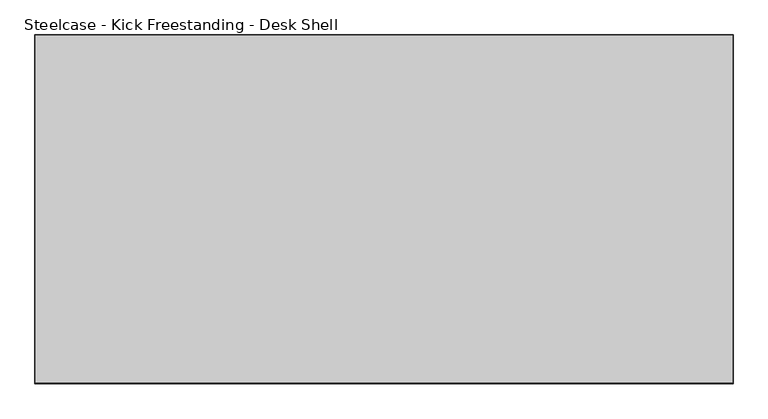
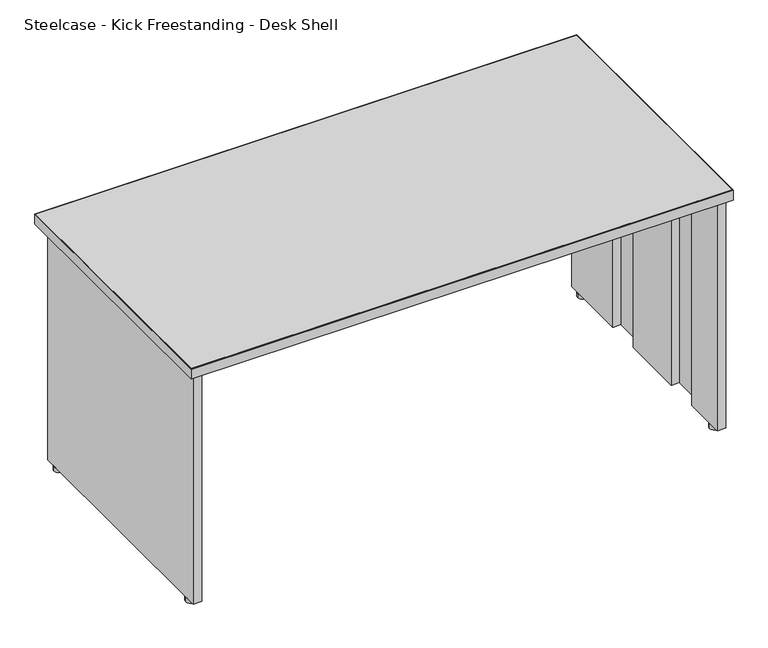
"""IFC4 building model written with IfcOpenShell, lengths in millimetres: furniture geometry, Steelcase - Kick Freestanding - Desk Shell : 30D x 60W."""

from ifc_helpers import new_model, si_unit, point, frame, frame_2d, origin, origin_with_axes, place, context, project, spatial, polyline, circle_curve, trimmed, segment, composite_curve, outline, extrude, source, transform, mapped, element, save


def steelcase_kick_freestanding_desk_shell_e798f491(model_context):
    return source(origin(), model_context, "Body", "SweptSolid", [
        extrude(outline(composite_curve([segment(trimmed(circle_curve(frame_2d((665.1357759, -1004.2087877)), 13.97), [point((651.1657759, -1004.2087877))], [point((679.1057759, -1004.2087877))], False, "CARTESIAN"), True, "CONTINUOUS"), segment(trimmed(circle_curve(frame_2d((665.1357759, -1004.2087877)), 13.97), [point((679.1057759, -1004.2087877))], [point((651.1657759, -1004.2087877))], False, "CARTESIAN"), True, "CONTINUOUS")], self_intersect=False)), origin_with_axes(), (0.0, 0.0, 1.0), 12.446),
        extrude(outline(composite_curve([segment(trimmed(circle_curve(frame_2d((665.1357759, -1646.0441481)), 13.97), [point((651.1657759, -1646.0441481))], [point((679.1057759, -1646.0441481))], False, "CARTESIAN"), True, "CONTINUOUS"), segment(trimmed(circle_curve(frame_2d((665.1357759, -1646.0441481)), 13.97), [point((679.1057759, -1646.0441481))], [point((651.1657759, -1646.0441481))], False, "CARTESIAN"), True, "CONTINUOUS")], self_intersect=False)), origin_with_axes(), (0.0, 0.0, 1.0), 12.446),
        extrude(outline(polyline([(2126.6738425, -1172.2529604), (2126.6738425, -972.7867604), (2151.1594421, -972.7867604), (2151.1594421, -1680.938741), (2126.6738421, -1680.938741), (2126.6738421, -1556.6311348), (2149.1020425, -1556.6311348), (2149.1020425, -1456.9107682), (2126.6738421, -1456.9107682), (2126.6738421, -1271.9733647), (2149.1020425, -1271.9733647), (2149.1020425, -1172.2529604), (2126.6738425, -1172.2529604)])), frame((0.0, 0.0, 12.446), z_axis=(0.0, 0.0, 1.0), x_axis=(1.0, 0.0, 0.0)), (0.0, 0.0, 1.0), 682.498),
        extrude(outline(polyline([(677.0450425, -1172.2529604), (654.6168425, -1172.2529604), (654.6168425, -1271.9733647), (677.0450429, -1271.9733647), (677.0450429, -1456.9107682), (654.6168425, -1456.9107682), (654.6168425, -1556.6311348), (677.0450429, -1556.6311348), (677.0450429, -1680.938741), (652.5594429, -1680.938741), (652.5594429, -972.7867604), (677.0450425, -972.7867604), (677.0450425, -1172.2529604)])), frame((0.0, 0.0, 12.446), z_axis=(0.0, 0.0, 1.0), x_axis=(1.0, 0.0, 0.0)), (0.0, 0.0, 1.0), 682.498),
        extrude(outline(polyline([(2162.8688425, -932.6293604), (2162.8688425, -1690.6669215), (640.8500425, -1690.6669215), (640.8500425, -932.6293604), (2162.8688425, -932.6293604)])), frame((0.0, 0.0, 694.944), z_axis=(0.0, 0.0, 1.0), x_axis=(1.0, 0.0, 0.0)), (0.0, 0.0, 1.0), 28.956),
        extrude(outline(polyline([(2163.8594425, -931.6387604), (2163.8594425, -1693.6387604), (639.8594425, -1693.6387604), (639.8594425, -931.6387604), (2163.8594425, -931.6387604)]), holes=[polyline([(2162.8688425, -932.6293604), (640.8500425, -932.6293604), (640.8500425, -1690.6669215), (2162.8688425, -1690.6669215), (2162.8688425, -932.6293604)])]), frame((0.0, 0.0, 694.944), z_axis=(0.0, 0.0, 1.0), x_axis=(1.0, 0.0, 0.0)), (0.0, 0.0, 1.0), 28.956),
        extrude(outline(composite_curve([segment(trimmed(circle_curve(frame_2d((2138.5831091, -1646.0441481)), 13.97), [point((2124.6131091, -1646.0441481))], [point((2152.5531091, -1646.0441481))], False, "CARTESIAN"), True, "CONTINUOUS"), segment(trimmed(circle_curve(frame_2d((2138.5831091, -1646.0441481)), 13.97), [point((2152.5531091, -1646.0441481))], [point((2124.6131091, -1646.0441481))], False, "CARTESIAN"), True, "CONTINUOUS")], self_intersect=False)), origin_with_axes(), (0.0, 0.0, 1.0), 12.446),
        extrude(outline(composite_curve([segment(trimmed(circle_curve(frame_2d((2138.5831091, -1004.2087877)), 13.97), [point((2152.5531091, -1004.2087877))], [point((2124.6131091, -1004.2087877))], False, "CARTESIAN"), True, "CONTINUOUS"), segment(trimmed(circle_curve(frame_2d((2138.5831091, -1004.2087877)), 13.97), [point((2124.6131091, -1004.2087877))], [point((2152.5531091, -1004.2087877))], False, "CARTESIAN"), True, "CONTINUOUS")], self_intersect=False)), origin_with_axes(), (0.0, 0.0, 1.0), 12.446),
    ])


if __name__ == "__main__":
    model = new_model("IFC4")
    model_context = context("Model", 3, world=origin())
    ifc_project = project(units=[si_unit("LENGTHUNIT", "METRE", prefix="MILLI")], contexts=[model_context])
    site = spatial("IfcSite", under=ifc_project)
    building = spatial("IfcBuilding", under=site)
    placement = place(None, origin())
    steelcase_kick_freestanding_desk_shell_shape = steelcase_kick_freestanding_desk_shell_e798f491(model_context)
    element("IfcFurniture", 1, ObjectType="Steelcase - Kick Freestanding - Desk Shell : 30D x 60W", at=placement, inside=building, context=model_context, shape_type="MappedRepresentation", body=[
        mapped(steelcase_kick_freestanding_desk_shell_shape, transform((0.0, 0.0, 0.0), x_axis=(1.0, 0.0, 0.0), y_axis=(0.0, 1.0, 0.0), z_axis=(0.0, 0.0, 1.0))),
    ])
    save(model, "model.ifc")
